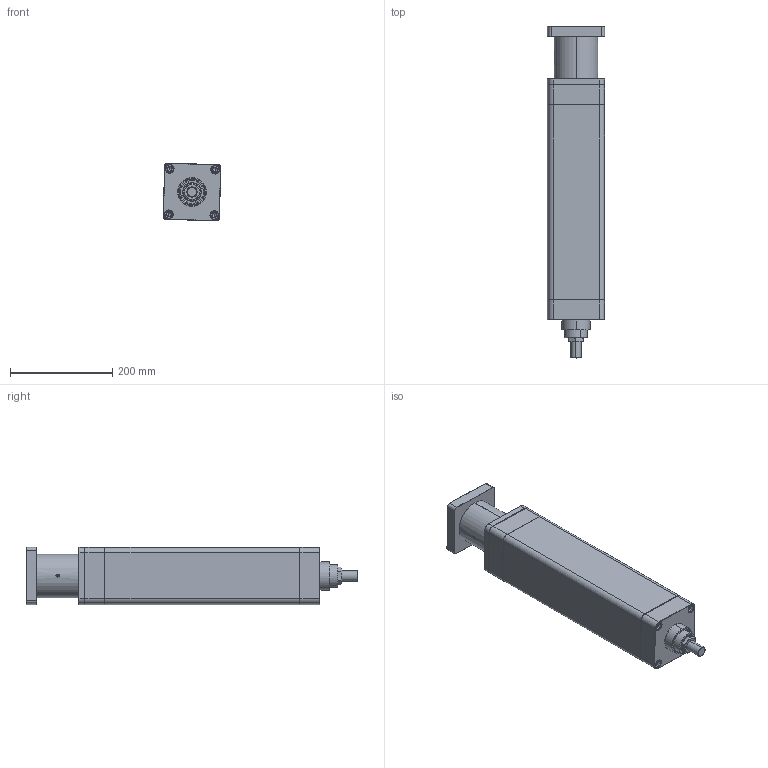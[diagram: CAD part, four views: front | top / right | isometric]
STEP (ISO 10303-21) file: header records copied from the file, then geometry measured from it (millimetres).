
FILE_DESCRIPTION (( 'STEP AP203' ), '1' );
FILE_NAME ('CS100Dr250.STEP', '2012-02-14T08:28:04', ( 'Admin' ), ( '' ), 'SwSTEP 2.0', 'SolidWorks 2007', '' );
FILE_SCHEMA (( 'CONFIG_CONTROL_DESIGN' ));
Length unit declared in the file: millimetre
Products named in the file (13): CS100BsNaselloINOX; CS100DrPiastraMotore110; M20x1.5Basso; CS100Dr250; DM100BsSteloCromato; CS100BsCorpo250; CPH100CeTestataPosteriore; CS100BsTestataAnteriore; CS100BsBoccolaGuida; BV10ViteDoppia; CS100DrCampana; CS100DrCoperchietto; M3x6Testa-Svas-Esag-Incas
Assembly tree (20 placements, depth 2):
  CS100Dr250
    M3x6Testa-Svas-Esag-Incas  x2
    CS100BsCorpo250
    BV10ViteDoppia  x8
    CS100BsNaselloINOX
    CS100BsBoccolaGuida
    CS100DrCoperchietto
    DM100BsSteloCromato
    M20x1.5Basso
    CS100DrCampana
    CS100DrPiastraMotore110
    CPH100CeTestataPosteriore
    CS100BsTestataAnteriore
Bounding box: 111.85 x 650.2 x 111.85 mm (x, y, z)
Volume: 2904412.7 mm3; surface area: 661011.4 mm2
Topology: 21 solids, 21 shells, 1036 faces, 2258 edges, 1284 vertices
Faces by surface type: cone 372, plane 316, cylinder 266, torus 74, bspline 8
Entity records: 22965 total; most frequent: CARTESIAN_POINT 5238, DIRECTION 3682, ORIENTED_EDGE 3128, EDGE_CURVE 1564, AXIS2_PLACEMENT_3D 1486, VERTEX_POINT 908, EDGE_LOOP 824, CIRCLE 756
